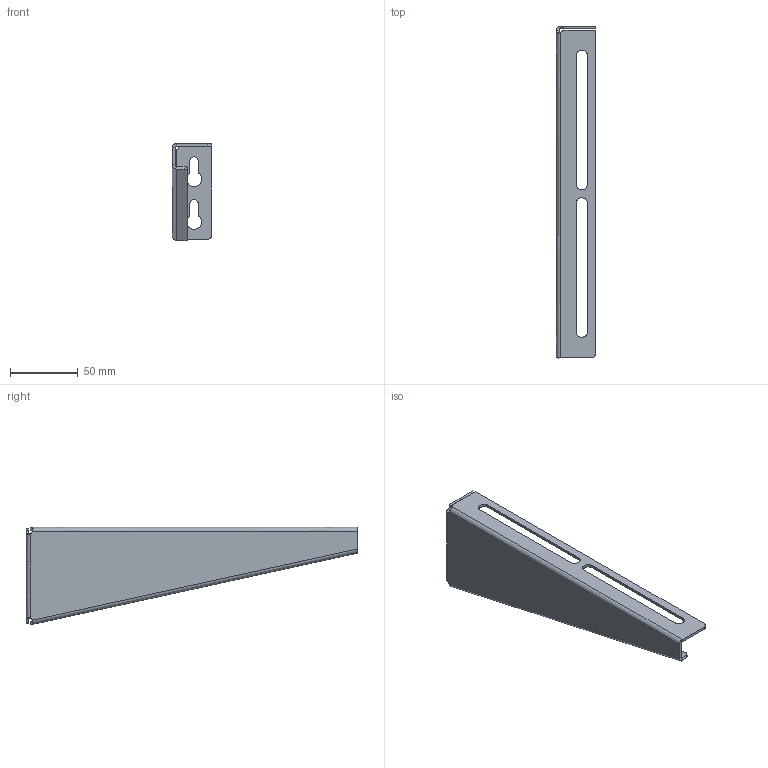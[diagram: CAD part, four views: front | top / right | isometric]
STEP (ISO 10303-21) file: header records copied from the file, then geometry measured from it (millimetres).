
FILE_DESCRIPTION(/* description */ (''),/* implementation_level */ '2;1');
FILE_NAME(/* name */ 'NZMU200_part',/* time_stamp */ '2022-09-01T12:30:12+02:00',/* author */ (''),/* organization */ (''),/* preprocessor_version */ 'ST-DEVELOPER v16.5',/* originating_system */ '',/* authorisation */ '');
FILE_SCHEMA (('CONFIG_CONTROL_DESIGN'));
Length unit declared in the file: millimetre
Products named in the file (1): Document
Bounding box: 29 x 245.31 x 71.94 mm (x, y, z)
Surface area: 41084.2 mm2 (no closed solid volume)
Topology: 0 solids, 1 shells, 59 faces, 149 edges, 91 vertices
Faces by surface type: plane 28, cylinder 19, bspline 12
Entity records: 1840 total; most frequent: CARTESIAN_POINT 825, ORIENTED_EDGE 295, EDGE_CURVE 149, VERTEX_POINT 91, EDGE_LOOP 67, ADVANCED_FACE 59, FACE_OUTER_BOUND 59, DIRECTION 51
